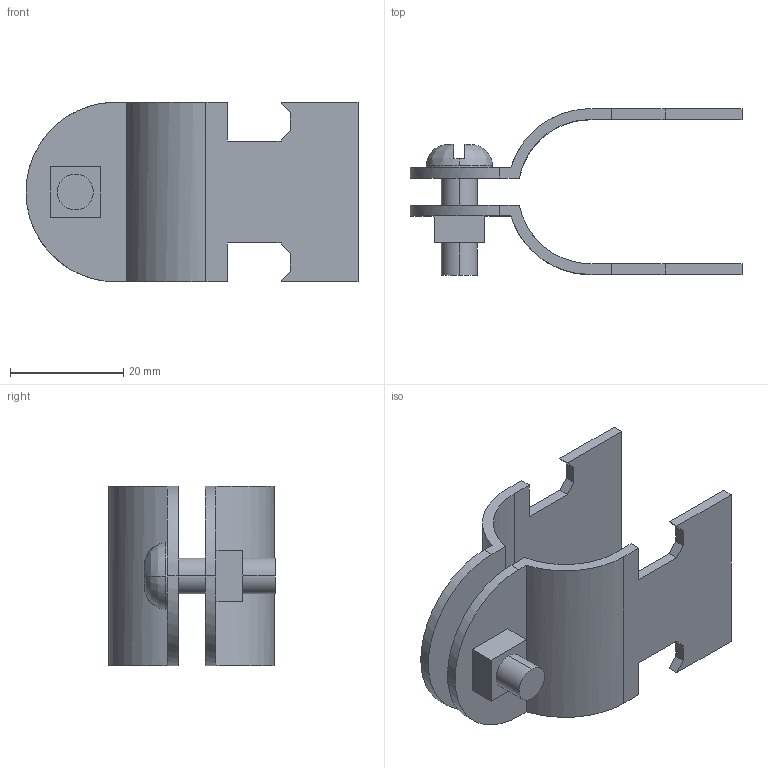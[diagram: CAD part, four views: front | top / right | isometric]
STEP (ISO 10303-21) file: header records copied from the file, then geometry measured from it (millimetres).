
FILE_DESCRIPTION(('TurboCAD Mac Pro'),'Build 980');
FILE_NAME('P2030.stp',' ',(''),(''),'ACIS Interop','IMSI','TurboCAD Mac Pro BY IMSI, INCORPORATED');
FILE_SCHEMA(('automotive_design'));
Length unit declared in the file: inch
Products named in the file (5): 1; 2; 3; 4; 5
Bounding box: 58.7 x 29.39 x 31.74 mm (x, y, z)
Volume: 7850.4 mm3; surface area: 8917.1 mm2
Topology: 4 solids, 4 shells, 75 faces, 194 edges, 128 vertices
Faces by surface type: plane 51, bspline 24
Entity records: 4437 total; most frequent: CARTESIAN_POINT 1154, ORIENTED_EDGE 388, DIRECTION 262, STYLED_ITEM 249, PRESENTATION_STYLE_ASSIGNMENT 249, COLOUR_RGB 249, EDGE_CURVE 194, CURVE_STYLE 170
